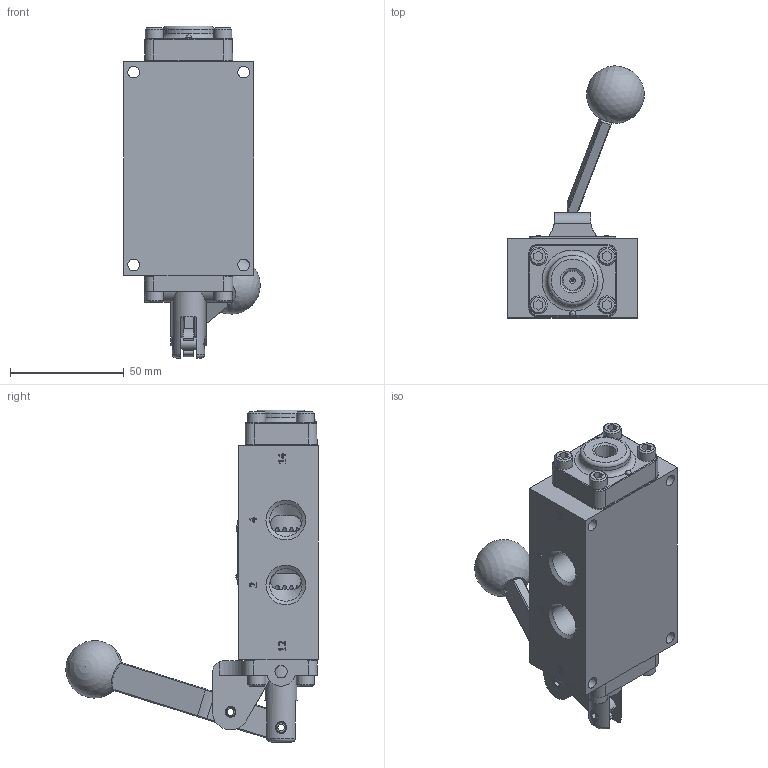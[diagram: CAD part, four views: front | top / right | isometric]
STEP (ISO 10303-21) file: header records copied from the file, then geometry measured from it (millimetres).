
FILE_DESCRIPTION(/* description */ (''),/* implementation_level */ '2;1');
FILE_NAME(/* name */ 'HR3BLHJ.stp',/* time_stamp */ '2025-02-14T05:37:57-05:00',/* author */ ('rmckenna'),/* organization */ (''),/* preprocessor_version */ 'ST-DEVELOPER v20',/* originating_system */ 'Autodesk Inventor 2024',/* authorisation */ '');
FILE_SCHEMA (('AUTOMOTIVE_DESIGN { 1 0 10303 214 3 1 1 }'));
Length unit declared in the file: centimetre
Products named in the file (1): Part9
Bounding box: 60.12 x 111.15 x 146.21 mm (x, y, z)
Volume: 203180.6 mm3; surface area: 61794.8 mm2
Topology: 1 solids, 31 shells, 1229 faces, 3010 edges, 1915 vertices
Faces by surface type: plane 538, cone 263, cylinder 223, bspline 102, torus 99, sphere 4
Full cylindrical faces by diameter (mm): 1.016 x1, 2.07 x2, 2.261 x2, 2.362 x2, 2.381 x2, 2.778 x2, 3.175 x2, 3.683 x10, 3.912 x3, 4.75 x2, 4.763 x2, 4.826 x8, 4.978 x4, 5.055 x1, 5.156 x12, 5.41 x1, 7.798 x1, 7.938 x8, 9.922 x2, 11.113 x1, 11.303 x2, 14.275 x1, 14.287 x5, 14.986 x1, 18.618 x1, 18.745 x12, 19.177 x2, 23.825 x6
Entity records: 40934 total; most frequent: CARTESIAN_POINT 11175, ORIENTED_EDGE 5976, DIRECTION 5659, EDGE_CURVE 2988, AXIS2_PLACEMENT_3D 2065, VERTEX_POINT 1915, LINE 1529, VECTOR 1529
